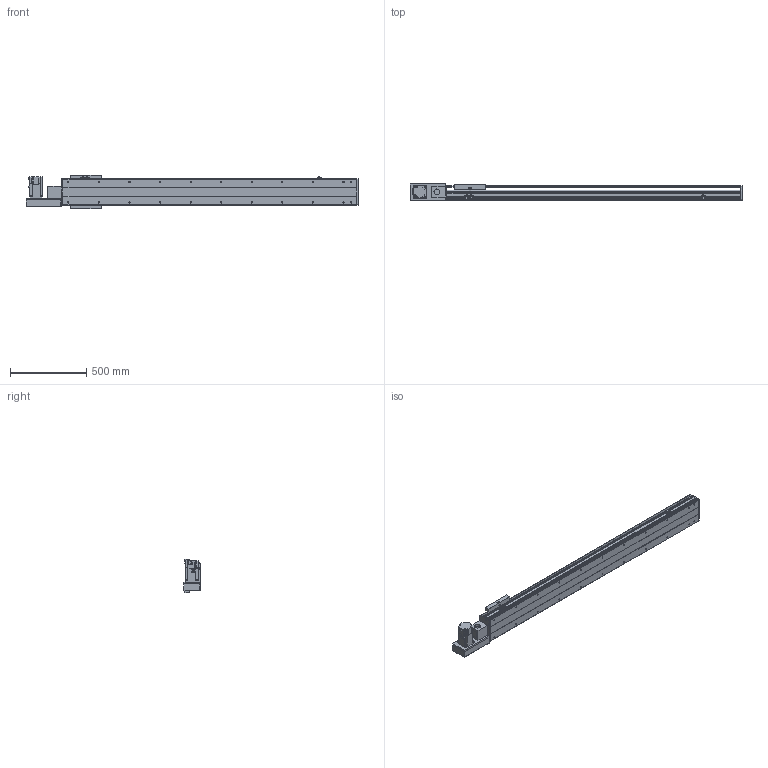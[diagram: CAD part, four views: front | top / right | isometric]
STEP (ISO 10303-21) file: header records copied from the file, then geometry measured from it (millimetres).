
FILE_DESCRIPTION(/* description */ ('STEP AP214'),/* implementation_level */ '2;1');
FILE_NAME(/* name */ 'PBS200-P40-S1550-L-T75-C1-N(0)',/* time_stamp */ '2022-06-11T07:49:23+02:00',/* author */ ('License CC BY-ND 4.0'),/* organization */ ('CADENAS'),/* preprocessor_version */ 'ST-DEVELOPER v18.102',/* originating_system */ 'PARTsolutions',/* authorisation */ ' ');
FILE_SCHEMA (('AUTOMOTIVE_DESIGN {1 0 10303 214 3 1 1}'));
Length unit declared in the file: millimetre
Products named in the file (7): PBS200-P40-S1550-L-T75-C1-N(0); PBS200_sensor; PBS200_plant; PBS200_sliser; T75-p1; PBS200T-L_motors; PBS200-S1550()_body
Assembly tree (8 placements, depth 2):
  PBS200-P40-S1550-L-T75-C1-N(0)
    PBS200_sensor  x3
    PBS200_plant
    PBS200_sliser
    T75-p1
    PBS200T-L_motors
    PBS200-S1550()_body
Bounding box: 2172 x 109 x 221 mm (x, y, z)
Volume: 14671314.1 mm3; surface area: 2361277.1 mm2
Topology: 8 solids, 8 shells, 938 faces, 2404 edges, 1566 vertices
Faces by surface type: plane 580, cylinder 304, cone 54
Full cylindrical faces by diameter (mm): 2.459 x6, 3.242 x4, 4.5 x6, 4.917 x4, 5 x6, 6 x7, 6.6 x8, 6.647 x26, 8 x6, 10 x4, 12 x8, 38 x2, 40 x1, 70 x1
Entity records: 24941 total; most frequent: DIRECTION 4399, CARTESIAN_POINT 4246, ORIENTED_EDGE 4018, EDGE_CURVE 2009, AXIS2_PLACEMENT_3D 1543, VERTEX_POINT 1390, LINE 1313, VECTOR 1313
